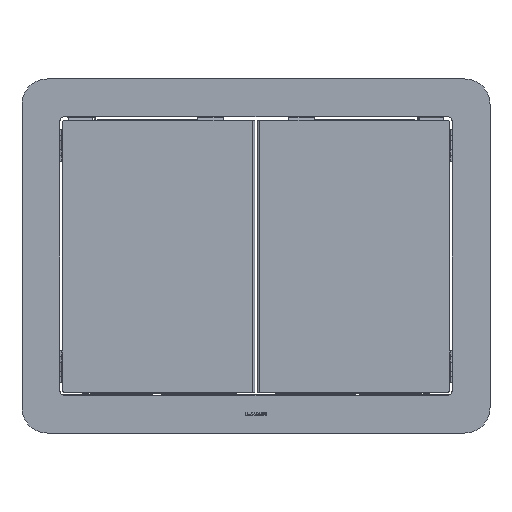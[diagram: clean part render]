
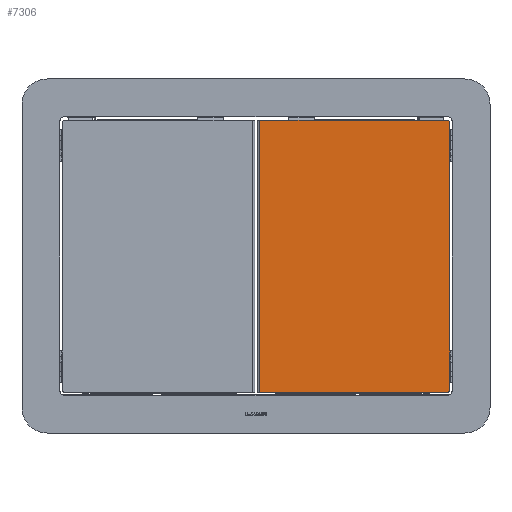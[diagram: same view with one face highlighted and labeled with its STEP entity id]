
A CAD part, top view. The second image highlights one B-rep face of the part: STEP entity #7306.
In plain terms, the highlighted planar face has unit normal (0, 0, 1) as drawn and (0, 1, 0) by its records, which use the part's own axes.
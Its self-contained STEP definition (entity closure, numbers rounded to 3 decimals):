
#288 = VECTOR ( 'NONE', #19336, 1000. ) ;
#514 = ORIENTED_EDGE ( 'NONE', *, *, #6199, .T. ) ;
#676 = DIRECTION ( 'NONE',  ( -1., 0., 0. ) ) ;
#1015 = VERTEX_POINT ( 'NONE', #24207 ) ;
#2870 = LINE ( 'NONE', #7407, #8662 ) ;
#3812 = LINE ( 'NONE', #10953, #22706 ) ;
#4444 = VECTOR ( 'NONE', #676, 1000. ) ;
#5043 = CIRCLE ( 'NONE', #15591, 2. ) ;
#5076 = VERTEX_POINT ( 'NONE', #6232 ) ;
#5431 = EDGE_CURVE ( 'NONE', #11574, #28452, #2870, .T. ) ;
#6199 = EDGE_CURVE ( 'NONE', #20516, #1015, #29045, .T. ) ;
#6232 = CARTESIAN_POINT ( 'NONE',  ( 152., 0., -2. ) ) ;
#6985 = PLANE ( 'NONE',  #16453 ) ;
#7306 = ADVANCED_FACE ( 'NONE', ( #27052 ), #6985, .T. ) ;
#7407 = CARTESIAN_POINT ( 'NONE',  ( 0., 0., -215.5 ) ) ;
#7638 = LINE ( 'NONE', #29172, #288 ) ;
#8574 = CARTESIAN_POINT ( 'NONE',  ( 147.4, 0., -215.5 ) ) ;
#8662 = VECTOR ( 'NONE', #31992, 1000. ) ;
#8696 = DIRECTION ( 'NONE',  ( 0., 1., 0. ) ) ;
#9465 = DIRECTION ( 'NONE',  ( 0., 0., 1. ) ) ;
#10164 = EDGE_CURVE ( 'NONE', #21305, #12334, #7638, .T. ) ;
#10261 = CARTESIAN_POINT ( 'NONE',  ( 150., 0., 0. ) ) ;
#10373 = DIRECTION ( 'NONE',  ( -1., 0., 0. ) ) ;
#10485 = ORIENTED_EDGE ( 'NONE', *, *, #10164, .T. ) ;
#10505 = CARTESIAN_POINT ( 'NONE',  ( 0., 0., -215.5 ) ) ;
#10569 = ORIENTED_EDGE ( 'NONE', *, *, #19126, .T. ) ;
#10953 = CARTESIAN_POINT ( 'NONE',  ( 0., 0., -215.5 ) ) ;
#10977 = CARTESIAN_POINT ( 'NONE',  ( 1.55, 0., -215.5 ) ) ;
#11118 = DIRECTION ( 'NONE',  ( 0., 0., 1. ) ) ;
#11574 = VERTEX_POINT ( 'NONE', #14959 ) ;
#12108 = ORIENTED_EDGE ( 'NONE', *, *, #16276, .T. ) ;
#12334 = VERTEX_POINT ( 'NONE', #17424 ) ;
#13218 = ORIENTED_EDGE ( 'NONE', *, *, #5431, .F. ) ;
#13220 = EDGE_CURVE ( 'NONE', #22628, #21305, #24101, .T. ) ;
#13975 = CARTESIAN_POINT ( 'NONE',  ( 152., 0., -213.5 ) ) ;
#14047 = EDGE_LOOP ( 'NONE', ( #514, #26613, #10569, #24155, #12108, #20056, #10485, #18362, #13218, #23724 ) ) ;
#14106 = VERTEX_POINT ( 'NONE', #13975 ) ;
#14147 = CARTESIAN_POINT ( 'NONE',  ( 150., 0., -2. ) ) ;
#14285 = CARTESIAN_POINT ( 'NONE',  ( 150., 0., -213.5 ) ) ;
#14408 = VECTOR ( 'NONE', #10373, 1000. ) ;
#14959 = CARTESIAN_POINT ( 'NONE',  ( 25., 0., -215.5 ) ) ;
#15176 = DIRECTION ( 'NONE',  ( 1., 0., 0. ) ) ;
#15591 = AXIS2_PLACEMENT_3D ( 'NONE', #23444, #8696, #25937 ) ;
#15883 = VECTOR ( 'NONE', #11118, 1000. ) ;
#16199 = CARTESIAN_POINT ( 'NONE',  ( 150., 0., 0. ) ) ;
#16276 = EDGE_CURVE ( 'NONE', #14106, #22628, #5043, .T. ) ;
#16453 = AXIS2_PLACEMENT_3D ( 'NONE', #14285, #24199, #9465 ) ;
#16627 = VECTOR ( 'NONE', #15176, 1000. ) ;
#16632 = DIRECTION ( 'NONE',  ( 0., 0., 1. ) ) ;
#17233 = EDGE_CURVE ( 'NONE', #1015, #27672, #18161, .T. ) ;
#17261 = DIRECTION ( 'NONE',  ( 0., 0., -1. ) ) ;
#17424 = CARTESIAN_POINT ( 'NONE',  ( 128.4, 0., -215.5 ) ) ;
#18161 = LINE ( 'NONE', #10261, #16627 ) ;
#18359 = DIRECTION ( 'NONE',  ( -1., 0., 0. ) ) ;
#18362 = ORIENTED_EDGE ( 'NONE', *, *, #24863, .T. ) ;
#18921 = EDGE_CURVE ( 'NONE', #11574, #20516, #3812, .T. ) ;
#19126 = EDGE_CURVE ( 'NONE', #27672, #5076, #19615, .T. ) ;
#19336 = DIRECTION ( 'NONE',  ( -1., 0., 0. ) ) ;
#19355 = EDGE_CURVE ( 'NONE', #5076, #14106, #22305, .T. ) ;
#19615 = CIRCLE ( 'NONE', #26627, 2. ) ;
#20056 = ORIENTED_EDGE ( 'NONE', *, *, #13220, .T. ) ;
#20516 = VERTEX_POINT ( 'NONE', #10977 ) ;
#20774 = VECTOR ( 'NONE', #17261, 1000. ) ;
#21305 = VERTEX_POINT ( 'NONE', #8574 ) ;
#22305 = LINE ( 'NONE', #31962, #20774 ) ;
#22628 = VERTEX_POINT ( 'NONE', #29299 ) ;
#22706 = VECTOR ( 'NONE', #18359, 1000. ) ;
#23444 = CARTESIAN_POINT ( 'NONE',  ( 150., 0., -213.5 ) ) ;
#23724 = ORIENTED_EDGE ( 'NONE', *, *, #18921, .T. ) ;
#23850 = CARTESIAN_POINT ( 'NONE',  ( 45., 0., -215.5 ) ) ;
#24101 = LINE ( 'NONE', #10505, #4444 ) ;
#24155 = ORIENTED_EDGE ( 'NONE', *, *, #19355, .T. ) ;
#24199 = DIRECTION ( 'NONE',  ( 0., 1., 0. ) ) ;
#24207 = CARTESIAN_POINT ( 'NONE',  ( 1.55, 0., 0. ) ) ;
#24863 = EDGE_CURVE ( 'NONE', #12334, #28452, #29102, .T. ) ;
#25117 = CARTESIAN_POINT ( 'NONE',  ( 0., 0., -215.5 ) ) ;
#25882 = CARTESIAN_POINT ( 'NONE',  ( 1.55, 0., -215.5 ) ) ;
#25937 = DIRECTION ( 'NONE',  ( 0., 0., 1. ) ) ;
#26613 = ORIENTED_EDGE ( 'NONE', *, *, #17233, .T. ) ;
#26627 = AXIS2_PLACEMENT_3D ( 'NONE', #14147, #31443, #16632 ) ;
#27052 = FACE_OUTER_BOUND ( 'NONE', #14047, .T. ) ;
#27672 = VERTEX_POINT ( 'NONE', #16199 ) ;
#28452 = VERTEX_POINT ( 'NONE', #23850 ) ;
#29045 = LINE ( 'NONE', #25882, #15883 ) ;
#29102 = LINE ( 'NONE', #25117, #14408 ) ;
#29172 = CARTESIAN_POINT ( 'NONE',  ( 128.4, 0., -215.5 ) ) ;
#29299 = CARTESIAN_POINT ( 'NONE',  ( 150., 0., -215.5 ) ) ;
#31443 = DIRECTION ( 'NONE',  ( 0., 1., 0. ) ) ;
#31962 = CARTESIAN_POINT ( 'NONE',  ( 152., 0., -213.5 ) ) ;
#31992 = DIRECTION ( 'NONE',  ( 1., 0., 0. ) ) ;
